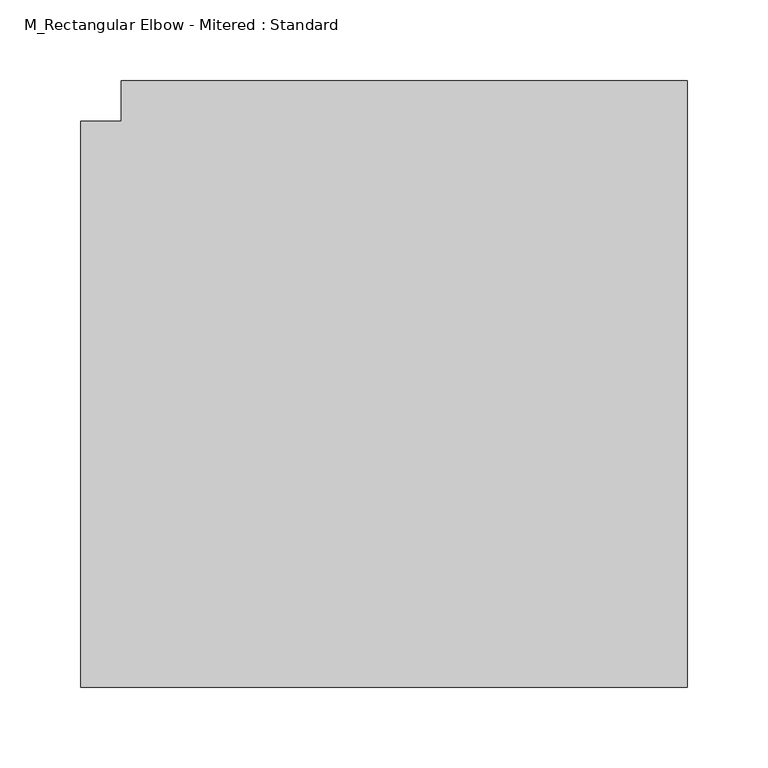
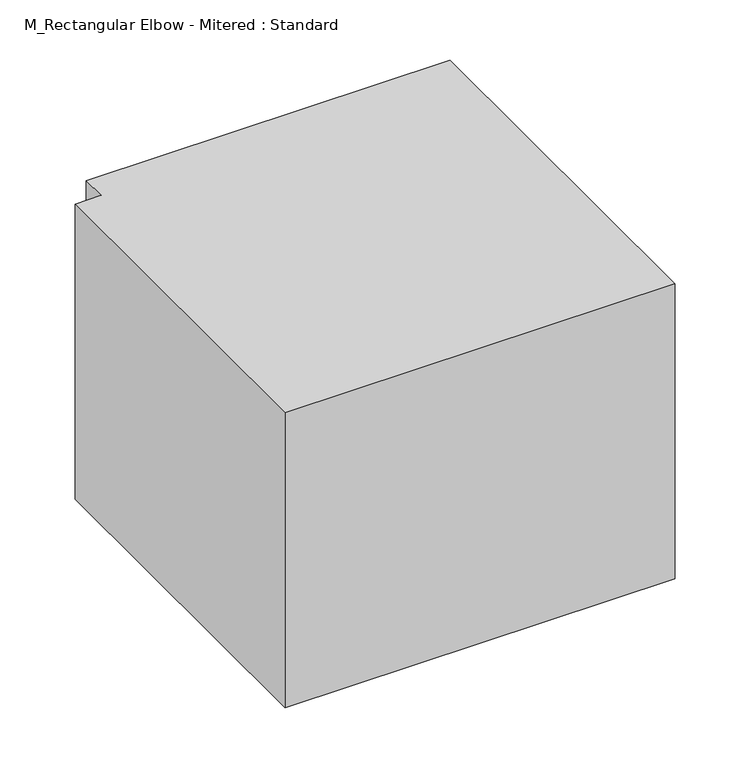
"""IFC4 building model written with IfcOpenShell, lengths in millimetres: duct fitting geometry, M_Rectangular Elbow - Mitered : Standard."""

import ifcopenshell
import ifcopenshell.guid

model = None  # the IFC model being written
_history = None  # IfcOwnerHistory: only IFC2X3 demands one
_inside = {}  # id of a spatial element -> (the spatial element, [elements in it])
_under = {}  # id of a project, library or spatial element -> (it, [spatial elements below it])
_declared = {}  # id of a project -> (the project, [libraries it declares])
_typed = {}  # id of a type object -> (the type object, [elements of that type])
_made_of = {}  # id of a material, layer set ... -> (it, [elements and type objects made of it])


def new_model(schema):
    """Start an empty IFC model of exactly this schema.

    Asked for "IFC4X3", IfcOpenShell would pick the latest addendum, in which some entities
    have other attributes; the version numbers below select the first issue.
    IFC2X3 requires an IfcOwnerHistory on every rooted entity: one is made here for all.
    """
    global model, _history
    if schema == "IFC4X3":
        model = ifcopenshell.file(schema_version=(4, 3, 0, 0))
    else:
        model = ifcopenshell.file(schema=schema)
    _inside.clear()
    _under.clear()
    _declared.clear()
    _typed.clear()
    _made_of.clear()
    _history = None
    if model.schema == "IFC2X3":
        org = make("IfcOrganization", Name="unknown")
        user = make(
            "IfcPersonAndOrganization",
            ThePerson=make("IfcPerson", FamilyName="unknown"),
            TheOrganization=org,
        )
        app = make(
            "IfcApplication",
            ApplicationDeveloper=org,
            Version="unknown",
            ApplicationFullName="unknown",
            ApplicationIdentifier="unknown",
        )
        _history = make(
            "IfcOwnerHistory",
            OwningUser=user,
            OwningApplication=app,
            ChangeAction="ADDED",
            CreationDate=0,
        )
    return model


def make(cls, **values):
    """One entity of the class cls with the attributes given. An attribute that is None is left unset."""
    return model.create_entity(
        cls, **{name: value for name, value in values.items() if value is not None}
    )


def rooted(cls, **values):
    """An entity with a GlobalId (a new one), such as an element, a storey or a relation."""
    return make(cls, GlobalId=ifcopenshell.guid.new(), OwnerHistory=_history, **values)


def si_unit(unit_type, name, prefix=None):
    """IfcSIUnit, for example si_unit("LENGTHUNIT", "METRE", prefix="MILLI")."""
    return make("IfcSIUnit", UnitType=unit_type, Prefix=prefix, Name=name)


def assignment(units):
    """IfcUnitAssignment: the units of a project."""
    return None if units is None else make("IfcUnitAssignment", Units=units)


def point(xyz):
    """IfcCartesianPoint."""
    return None if xyz is None else make("IfcCartesianPoint", Coordinates=xyz)


def direction(xyz):
    """IfcDirection."""
    return None if xyz is None else make("IfcDirection", DirectionRatios=xyz)


def frame(location, z_axis=None, x_axis=None):
    """IfcAxis2Placement3D, a coordinate frame: its origin and axes. An axis left out is left unset."""
    return make(
        "IfcAxis2Placement3D",
        Location=point(location),
        Axis=direction(z_axis),
        RefDirection=direction(x_axis),
    )


def origin():
    """The frame at (0, 0, 0) with its axes left unset."""
    return frame((0.0, 0.0, 0.0))


def place(relative_to, where):
    """IfcLocalPlacement: puts the frame where relative to a parent placement (None: the world)."""
    return make(
        "IfcLocalPlacement", PlacementRelTo=relative_to, RelativePlacement=where
    )


def context(
    kind, dimensions, precision=None, world=None, true_north=None, identifier=None
):
    """IfcGeometricRepresentationContext, for example the 3D "Model" context."""
    return make(
        "IfcGeometricRepresentationContext",
        ContextIdentifier=identifier,
        ContextType=kind,
        CoordinateSpaceDimension=dimensions,
        Precision=precision,
        WorldCoordinateSystem=world,
        TrueNorth=true_north,
    )


def project(units=None, contexts=None):
    """IfcProject with its units and contexts."""
    return rooted(
        "IfcProject",
        Name="project",
        RepresentationContexts=contexts,
        UnitsInContext=assignment(units),
    )


def spatial(cls, under=None, at=None, **own):
    """A site, building, storey or space (cls), placed at a placement, below another one or the project."""
    s = rooted(cls, ObjectPlacement=at, **own)
    if under is not None:
        _under.setdefault(under.id(), (under, []))[1].append(s)
    return s


def polyline(points):
    """IfcPolyline through the points."""
    return make("IfcPolyline", Points=[point(p) for p in points])


def outline(outer, holes=None, kind="AREA"):
    """IfcArbitraryClosedProfileDef: a profile drawn as a closed curve; with holes, ...WithVoids."""
    if holes is None:
        return make("IfcArbitraryClosedProfileDef", ProfileType=kind, OuterCurve=outer)
    return make(
        "IfcArbitraryProfileDefWithVoids",
        ProfileType=kind,
        OuterCurve=outer,
        InnerCurves=holes,
    )


def extrude(swept, where, along, depth):
    """IfcExtrudedAreaSolid: the profile swept, set in the frame where, extruded along a direction by depth."""
    return make(
        "IfcExtrudedAreaSolid",
        SweptArea=swept,
        Position=where,
        ExtrudedDirection=direction(along),
        Depth=depth,
    )


def shape(context_of_items, identifier, shape_type, items):
    """IfcShapeRepresentation: the items that make up one representation, for example the "Body"."""
    return make(
        "IfcShapeRepresentation",
        ContextOfItems=context_of_items,
        RepresentationIdentifier=identifier,
        RepresentationType=shape_type,
        Items=items,
    )


def source(mapping_origin, context_of_items, identifier, shape_type, items):
    """IfcRepresentationMap: a shape defined once, which mapped items show again and again."""
    return make(
        "IfcRepresentationMap",
        MappingOrigin=mapping_origin,
        MappedRepresentation=shape(context_of_items, identifier, shape_type, items),
    )


def transform(
    local_origin,
    x_axis=None,
    y_axis=None,
    z_axis=None,
    scale=None,
    scale2=None,
    scale3=None,
    uniform=True,
):
    """IfcCartesianTransformationOperator3D, or its non-uniform kind. x_axis, y_axis, z_axis: its Axis1, 2, 3."""
    if uniform:
        return make(
            "IfcCartesianTransformationOperator3D",
            Axis1=direction(x_axis),
            Axis2=direction(y_axis),
            LocalOrigin=point(local_origin),
            Scale=scale,
            Axis3=direction(z_axis),
        )
    return make(
        "IfcCartesianTransformationOperator3DnonUniform",
        Axis1=direction(x_axis),
        Axis2=direction(y_axis),
        LocalOrigin=point(local_origin),
        Scale=scale,
        Axis3=direction(z_axis),
        Scale2=scale2,
        Scale3=scale3,
    )


def mapped(mapping_source, mapping_target):
    """IfcMappedItem: shows the shape of a source again, moved by a transform."""
    return make(
        "IfcMappedItem", MappingSource=mapping_source, MappingTarget=mapping_target
    )


def made_of(thing, what):
    """Note that an element or type object is made of a material, layer set ...; save() writes the relation."""
    if what is not None:
        _made_of.setdefault(what.id(), (what, []))[1].append(thing)
    return thing


def element(
    cls,
    number,
    at=None,
    inside=None,
    cuts=None,
    type_object=None,
    material=None,
    context=None,
    identifier="Body",
    shape_type=None,
    held_by="IfcProductDefinitionShape",
    body=None,
    shapes=None,
    **own,
):
    """One element of the class cls, such as IfcWall. Its Tag is "e" and its number.

    at: its placement. inside: the storey or other place that contains it. cuts: it is an
    opening in that element (IfcRelVoidsElement). A single representation is given by context,
    identifier, shape_type and body (its items); several are given by shapes. held_by: the class
    of the entity that holds the representations. save() writes the other relations.
    """
    e = rooted(cls, Tag="e%d" % number, ObjectPlacement=at, **own)
    if body is not None:
        shapes = [shape(context, identifier, shape_type, body)]
    if shapes is not None:
        e.Representation = make(held_by, Representations=shapes)
    if inside is not None:
        _inside.setdefault(inside.id(), (inside, []))[1].append(e)
    if cuts is not None:
        rooted(
            "IfcRelVoidsElement", RelatingBuildingElement=cuts, RelatedOpeningElement=e
        )
    if type_object is not None:
        _typed.setdefault(type_object.id(), (type_object, []))[1].append(e)
    return made_of(e, material)


def aggregate(whole, parts):
    """IfcRelAggregates: a whole, such as a stair, and the parts it consists of."""
    return rooted("IfcRelAggregates", RelatingObject=whole, RelatedObjects=parts)


def save(model, path):
    """Write the relations noted so far, then the file.

    IfcRelAggregates (storeys below a building ...), IfcRelContainedInSpatialStructure (elements
    in a storey), IfcRelDefinesByType, IfcRelAssociatesMaterial and IfcRelDeclares: one each for
    every whole, place, type object, material and project.
    """
    for whole, parts in _under.values():
        aggregate(whole, parts)
    for where, things in _inside.values():
        rooted(
            "IfcRelContainedInSpatialStructure",
            RelatedElements=things,
            RelatingStructure=where,
        )
    for kind, things in _typed.values():
        rooted("IfcRelDefinesByType", RelatedObjects=things, RelatingType=kind)
    for what, things in _made_of.values():
        rooted("IfcRelAssociatesMaterial", RelatedObjects=things, RelatingMaterial=what)
    for by, libraries in _declared.values():
        rooted("IfcRelDeclares", RelatingContext=by, RelatedDefinitions=libraries)
    model.write(path)


def m_rectangular_elbow_mitered_standard_2347553f(model_context):
    return source(origin(), model_context, "Body", "SweptSolid", [
        extrude(outline(polyline([(-200.0, -175.0), (-200.0, 175.0), (-175.0, 175.0), (-175.0, 200.0), (175.0, 200.0), (175.0, -175.0), (-200.0, -175.0)])), frame((0.0, 0.0, -150.0), z_axis=(0.0, 0.0, 1.0), x_axis=(1.0, 0.0, 0.0)), (0.0, 0.0, 1.0), 300.0),
        extrude(outline(polyline([(-200.0, -175.0), (-200.0, 175.0), (-175.0, 175.0), (-175.0, 200.0), (175.0, 200.0), (175.0, -175.0), (-200.0, -175.0)])), frame((0.0, 0.0, -150.0), z_axis=(0.0, 0.0, 1.0), x_axis=(1.0, 0.0, 0.0)), (0.0, 0.0, 1.0), 300.0),
        extrude(outline(polyline([(-200.0, -175.0), (-200.0, 175.0), (-175.0, 175.0), (-175.0, 200.0), (175.0, 200.0), (175.0, -175.0), (-200.0, -175.0)])), frame((0.0, 0.0, -150.0), z_axis=(0.0, 0.0, 1.0), x_axis=(1.0, 0.0, 0.0)), (0.0, 0.0, 1.0), 300.0),
    ])


if __name__ == "__main__":
    model = new_model("IFC4")
    model_context = context("Model", 3, world=origin())
    ifc_project = project(units=[si_unit("LENGTHUNIT", "METRE", prefix="MILLI")], contexts=[model_context])
    site = spatial("IfcSite", under=ifc_project)
    building = spatial("IfcBuilding", under=site)
    placement = place(None, origin())
    m_rectangular_elbow_mitered_standard_shape = m_rectangular_elbow_mitered_standard_2347553f(model_context)
    element("IfcDuctFitting", 1, ObjectType="M_Rectangular Elbow - Mitered : Standard", at=placement, inside=building, context=model_context, shape_type="MappedRepresentation", body=[
        mapped(m_rectangular_elbow_mitered_standard_shape, transform((0.0, 0.0, 0.0), x_axis=(1.0, 0.0, 0.0), y_axis=(0.0, 1.0, 0.0), z_axis=(0.0, 0.0, 1.0))),
    ])
    save(model, "model.ifc")
